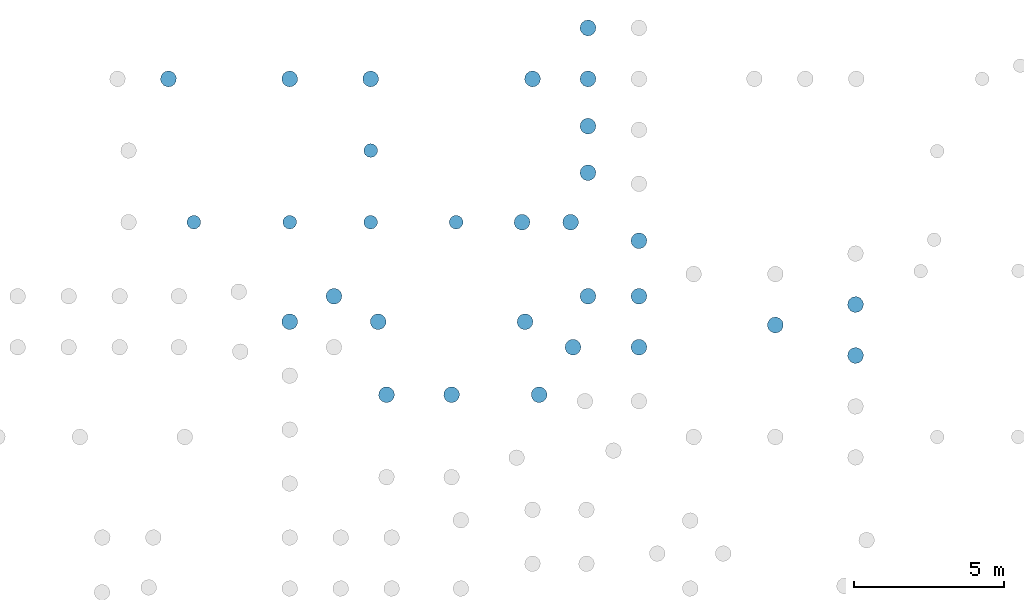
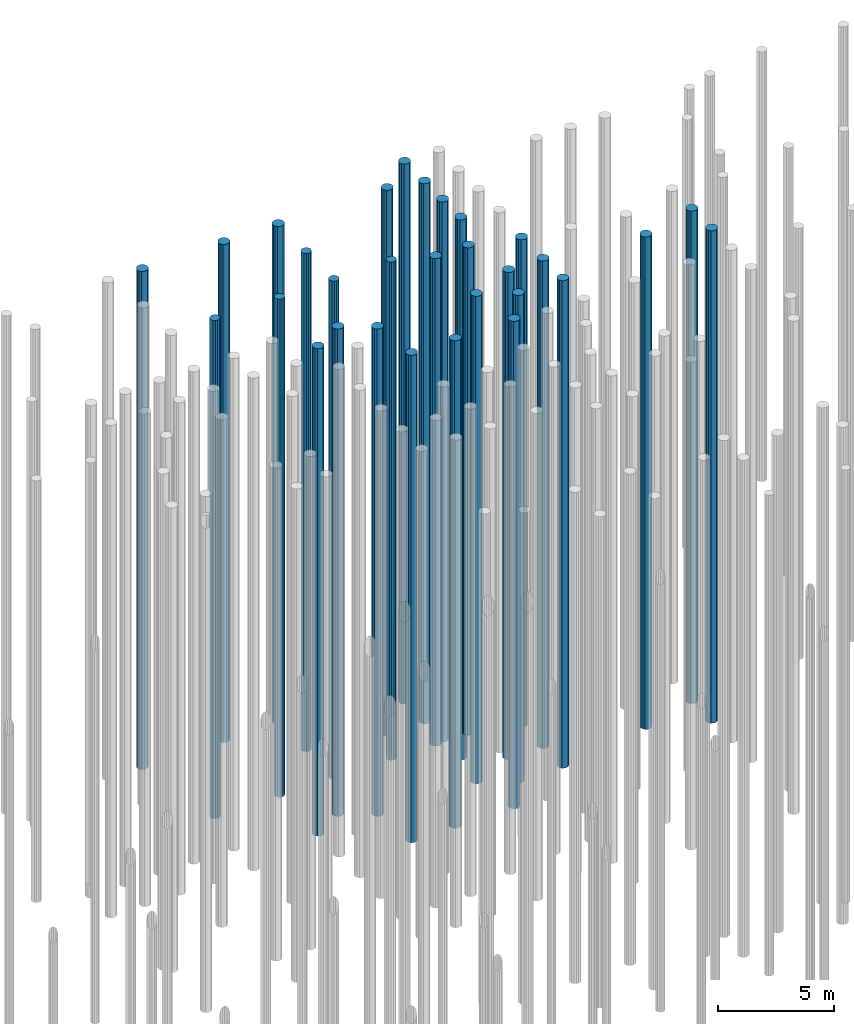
# One storey, part 9 of 20: 30 piles.
"""IFC2X3 building model written with IfcOpenShell, lengths in millimetres."""

from ifc_helpers import new_model, entity, si_unit, converted_unit, derived_unit, direction, frame, origin, place, context, subcontext, project, spatial, polyline, outline, extrude, material, element, save


model = new_model("IFC2X3")

# Units and contexts
model_context = context("Model", 3, precision=0.01, world=origin(), true_north=direction((6.12303176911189e-17, 1.0)))
body_context = subcontext(model_context, "Body", "Model", "MODEL_VIEW")
ifc_project = project(units=[si_unit("LENGTHUNIT", "METRE", prefix="MILLI"), si_unit("AREAUNIT", "SQUARE_METRE"), si_unit("VOLUMEUNIT", "CUBIC_METRE"), converted_unit("PLANEANGLEUNIT", "DEGREE", entity("IfcRatioMeasure", 0.0174532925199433), si_unit("PLANEANGLEUNIT", "RADIAN"), dimensions=[0, 0, 0, 0, 0, 0, 0]), si_unit("MASSUNIT", "GRAM", prefix="KILO"), derived_unit("MASSDENSITYUNIT", [(si_unit("MASSUNIT", "GRAM", prefix="KILO"), 1), (si_unit("LENGTHUNIT", "METRE"), -3)]), si_unit("TIMEUNIT", "SECOND"), si_unit("FREQUENCYUNIT", "HERTZ"), si_unit("THERMODYNAMICTEMPERATUREUNIT", "DEGREE_CELSIUS"), derived_unit("THERMALTRANSMITTANCEUNIT", [(si_unit("MASSUNIT", "GRAM", prefix="KILO"), 1), (si_unit("THERMODYNAMICTEMPERATUREUNIT", "KELVIN"), -1), (si_unit("TIMEUNIT", "SECOND"), -3)]), derived_unit("VOLUMETRICFLOWRATEUNIT", [(si_unit("LENGTHUNIT", "METRE"), 3), (si_unit("TIMEUNIT", "SECOND"), -1)]), si_unit("ELECTRICCURRENTUNIT", "AMPERE"), si_unit("ELECTRICVOLTAGEUNIT", "VOLT"), si_unit("POWERUNIT", "WATT"), si_unit("FORCEUNIT", "NEWTON", prefix="KILO"), si_unit("ILLUMINANCEUNIT", "LUX"), si_unit("LUMINOUSFLUXUNIT", "LUMEN"), si_unit("LUMINOUSINTENSITYUNIT", "CANDELA"), derived_unit("USERDEFINED", [(si_unit("MASSUNIT", "GRAM", prefix="KILO"), -1), (si_unit("LENGTHUNIT", "METRE"), -2), (si_unit("TIMEUNIT", "SECOND"), 3), (si_unit("LUMINOUSFLUXUNIT", "LUMEN"), 1)]), derived_unit("LINEARVELOCITYUNIT", [(si_unit("LENGTHUNIT", "METRE"), 1), (si_unit("TIMEUNIT", "SECOND"), -1)]), si_unit("PRESSUREUNIT", "PASCAL"), derived_unit("USERDEFINED", [(si_unit("LENGTHUNIT", "METRE"), -2), (si_unit("MASSUNIT", "GRAM", prefix="KILO"), 1), (si_unit("TIMEUNIT", "SECOND"), -2)])], contexts=[model_context])

# Site, building, storey
site_placement = place(None, origin())
site = spatial("IfcSite", under=ifc_project, at=site_placement, Name="Default", CompositionType="ELEMENT")
building_placement = place(site_placement, origin())
building = spatial("IfcBuilding", under=site, at=building_placement, Name="niet gebruiken", CompositionType="ELEMENT")
storey_placement = place(building_placement, frame((0.0, 0.0, -4000.0)))
storey = spatial("IfcBuildingStorey", under=building, at=storey_placement, Name="Level t.b.v. palenplan", CompositionType="ELEMENT", Elevation=-4000.0)

# Piles
ifc_material = material(Name="NLRS_f2_beton ihwg")
pile_1_placement = place(storey_placement, origin())
element("IfcPile", 1, at=pile_1_placement, inside=storey, material=ifc_material, Name="NLRS_17.12_SFO_TLB_funderingspaal grondverdringend_gen:Fundex_r530/650", ObjectType="NLRS_17.12_SFO_TLB_funderingspaal grondverdringend_gen:Fundex_r530/650", context=body_context, shape_type="SweptSolid", body=[
    extrude(outline(polyline([(-55.0965980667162, -259.209114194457), (55.096598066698, -259.209114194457), (155.763091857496, -214.389503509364), (229.496732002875, -132.500000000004), (263.548302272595, -27.7000427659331), (252.02997681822, 81.889503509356), (196.933378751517, 177.319610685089), (107.785210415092, 242.089546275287), (55.0965980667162, 259.209114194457), (-55.096598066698, 259.209114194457), (-155.763091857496, 214.389503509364), (-229.496732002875, 132.500000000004), (-263.548302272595, 27.7000427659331), (-252.02997681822, -81.889503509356), (-196.933378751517, -177.319610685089), (-107.785210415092, -242.089546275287), (-55.0965980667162, -259.209114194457)])), frame((46120.0, 42596.0, -23600.0), z_axis=(0.0, 0.0, 1.0), x_axis=(-0.978147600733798, -0.207911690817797, 0.0)), (0.0, 0.0, 1.0), 25570.0),
])
pile_2_placement = place(storey_placement, origin())
element("IfcPile", 2, at=pile_2_placement, inside=storey, material=ifc_material, Name="NLRS_17.12_SFO_TLB_funderingspaal grondverdringend_gen:Fundex_r530/650", ObjectType="NLRS_17.12_SFO_TLB_funderingspaal grondverdringend_gen:Fundex_r530/650", context=body_context, shape_type="SweptSolid", body=[
    extrude(outline(polyline([(-55.0965980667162, -259.209114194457), (55.096598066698, -259.209114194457), (155.763091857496, -214.389503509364), (229.496732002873, -132.500000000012), (263.548302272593, -27.7000427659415), (252.029976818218, 81.8895035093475), (196.933378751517, 177.319610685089), (107.785210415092, 242.089546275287), (55.0965980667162, 259.209114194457), (-55.096598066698, 259.209114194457), (-155.763091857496, 214.389503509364), (-229.496732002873, 132.500000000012), (-263.548302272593, 27.7000427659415), (-252.029976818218, -81.8895035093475), (-196.933378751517, -177.319610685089), (-107.785210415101, -242.089546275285), (-55.0965980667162, -259.209114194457)])), frame((43200.0, 42596.0, -23600.0), z_axis=(0.0, 0.0, 1.0), x_axis=(-0.978147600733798, -0.207911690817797, 0.0)), (0.0, 0.0, 1.0), 25570.0),
])
pile_3_placement = place(storey_placement, origin())
element("IfcPile", 3, at=pile_3_placement, inside=storey, material=ifc_material, Name="NLRS_17.12_SFO_TLB_funderingspaal grondverdringend_gen:Fundex_r530/650", ObjectType="NLRS_17.12_SFO_TLB_funderingspaal grondverdringend_gen:Fundex_r530/650", context=body_context, shape_type="SweptSolid", body=[
    extrude(outline(polyline([(-55.0965980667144, -259.209114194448), (55.0965980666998, -259.209114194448), (155.763091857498, -214.389503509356), (229.496732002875, -132.500000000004), (263.548302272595, -27.7000427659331), (252.02997681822, 81.889503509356), (196.933378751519, 177.319610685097), (107.785210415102, 242.089546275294), (55.096598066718, 259.209114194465), (-55.0965980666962, 259.209114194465), (-155.763091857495, 214.389503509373), (-229.496732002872, 132.500000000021), (-263.548302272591, 27.70004276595), (-252.029976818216, -81.8895035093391), (-196.933378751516, -177.31961068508), (-107.785210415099, -242.089546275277), (-55.0965980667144, -259.209114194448)])), frame((41030.0, 42596.0, -23600.0), z_axis=(0.0, 0.0, 1.0), x_axis=(-0.978147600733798, -0.207911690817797, 0.0)), (0.0, 0.0, 1.0), 25570.0),
])
pile_4_placement = place(storey_placement, origin())
element("IfcPile", 4, at=pile_4_placement, inside=storey, material=ifc_material, Name="NLRS_17.12_SFO_TLB_funderingspaal grondverdringend_gen:Fundex_r530/650", ObjectType="NLRS_17.12_SFO_TLB_funderingspaal grondverdringend_gen:Fundex_r530/650", context=body_context, shape_type="SweptSolid", body=[
    extrude(outline(polyline([(-55.0965980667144, -259.209114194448), (55.0965980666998, -259.209114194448), (155.763091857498, -214.389503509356), (229.496732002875, -132.500000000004), (263.54830227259, -27.7000427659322), (252.02997681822, 81.889503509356), (196.933378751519, 177.319610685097), (107.785210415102, 242.089546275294), (55.096598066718, 259.209114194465), (-55.0965980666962, 259.209114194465), (-155.763091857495, 214.389503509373), (-229.496732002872, 132.500000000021), (-263.548302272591, 27.70004276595), (-252.029976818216, -81.8895035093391), (-196.933378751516, -177.31961068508), (-107.785210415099, -242.089546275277), (-55.0965980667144, -259.209114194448)])), frame((39275.0, 45881.0, -23600.0), z_axis=(0.0, 0.0, 1.0), x_axis=(-0.978147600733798, -0.207911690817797, 0.0)), (0.0, 0.0, 1.0), 25570.0),
])
pile_5_placement = place(storey_placement, origin())
element("IfcPile", 5, at=pile_5_placement, inside=storey, material=ifc_material, Name="NLRS_17.12_SFO_TLB_funderingspaal grondverdringend_gen:Fundex_r530/650", ObjectType="NLRS_17.12_SFO_TLB_funderingspaal grondverdringend_gen:Fundex_r530/650", context=body_context, shape_type="SweptSolid", body=[
    extrude(outline(polyline([(-55.0965980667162, -259.209114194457), (55.096598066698, -259.209114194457), (155.763091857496, -214.389503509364), (229.496732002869, -132.500000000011), (263.548302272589, -27.7000427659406), (252.029976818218, 81.8895035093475), (196.933378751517, 177.319610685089), (107.785210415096, 242.089546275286), (55.0965980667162, 259.209114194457), (-55.096598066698, 259.209114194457), (-155.763091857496, 214.389503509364), (-229.496732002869, 132.500000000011), (-263.548302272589, 27.7000427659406), (-252.029976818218, -81.8895035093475), (-196.933378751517, -177.319610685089), (-107.785210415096, -242.089546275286), (-55.0965980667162, -259.209114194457)])), frame((37800.0, 45031.0, -23600.0), z_axis=(0.0, 0.0, 1.0), x_axis=(-0.978147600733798, -0.207911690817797, 0.0)), (0.0, 0.0, 1.0), 25570.0),
])
pile_6_placement = place(storey_placement, origin())
element("IfcPile", 6, at=pile_6_placement, inside=storey, material=ifc_material, Name="NLRS_17.12_SFO_TLB_funderingspaal grondverdringend_gen:Fundex_r530/650", ObjectType="NLRS_17.12_SFO_TLB_funderingspaal grondverdringend_gen:Fundex_r530/650", context=body_context, shape_type="SweptSolid", body=[
    extrude(outline(polyline([(-55.0965980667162, -259.209114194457), (55.096598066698, -259.209114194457), (155.763091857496, -214.389503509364), (229.496732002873, -132.500000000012), (263.548302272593, -27.7000427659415), (252.029976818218, 81.8895035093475), (196.933378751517, 177.319610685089), (107.785210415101, 242.089546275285), (55.0965980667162, 259.209114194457), (-55.096598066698, 259.209114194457), (-155.763091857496, 214.389503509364), (-229.496732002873, 132.500000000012), (-263.548302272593, 27.7000427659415), (-252.029976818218, -81.8895035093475), (-196.933378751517, -177.319610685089), (-107.785210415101, -242.089546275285), (-55.0965980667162, -259.209114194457)])), frame((40750.0, 45031.0, -23600.0), z_axis=(0.0, 0.0, 1.0), x_axis=(-0.978147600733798, -0.207911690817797, 0.0)), (0.0, 0.0, 1.0), 25570.0),
])
pile_7_placement = place(storey_placement, origin())
element("IfcPile", 7, at=pile_7_placement, inside=storey, material=ifc_material, Name="NLRS_17.12_SFO_TLB_funderingspaal grondverdringend_gen:Fundex_r530/650", ObjectType="NLRS_17.12_SFO_TLB_funderingspaal grondverdringend_gen:Fundex_r530/650", context=body_context, shape_type="SweptSolid", body=[
    extrude(outline(polyline([(-55.0965980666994, -259.209114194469), (55.0965980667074, -259.209114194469), (155.763091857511, -214.389503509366), (229.496732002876, -132.500000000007), (263.548302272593, -27.7000427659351), (252.02997681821, 81.889503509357), (196.933378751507, 177.31961068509), (107.785210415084, 242.089546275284), (55.0965980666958, 259.209114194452), (-55.0965980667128, 259.209114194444), (-155.763091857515, 214.389503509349), (-229.496732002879, 132.49999999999), (-263.548302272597, 27.7000427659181), (-252.029976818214, -81.889503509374), (-196.933378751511, -177.319610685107), (-107.785210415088, -242.089546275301), (-55.0965980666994, -259.209114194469)])), frame((56675.0, 45604.0, -23600.0), z_axis=(0.0, 0.0, 1.0), x_axis=(-0.978147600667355, -0.207911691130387, 0.0)), (0.0, 0.0, 1.0), 25828.0),
])
pile_8_placement = place(storey_placement, origin())
element("IfcPile", 8, at=pile_8_placement, inside=storey, material=ifc_material, Name="NLRS_17.12_SFO_TLB_funderingspaal grondverdringend_gen:Fundex_r530/650", ObjectType="NLRS_17.12_SFO_TLB_funderingspaal grondverdringend_gen:Fundex_r530/650", context=body_context, shape_type="SweptSolid", body=[
    extrude(outline(polyline([(-55.0965980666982, -259.209114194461), (55.0965980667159, -259.209114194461), (155.763091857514, -214.389503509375), (229.496732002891, -132.500000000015), (263.548302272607, -27.7000427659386), (252.029976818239, 81.8895035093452), (196.933378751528, 177.319610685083), (107.785210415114, 242.089546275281), (55.0965980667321, 259.209114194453), (-55.096598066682, 259.209114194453), (-155.763091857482, 214.389503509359), (-229.496732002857, 132.500000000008), (-263.548302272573, 27.7000427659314), (-252.029976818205, -81.8895035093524), (-196.933378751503, -177.319610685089), (-107.78521041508, -242.089546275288), (-55.0965980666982, -259.209114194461)])), frame((54000.0, 44921.0, -23600.0), z_axis=(0.0, 0.0, 1.0), x_axis=(-0.978147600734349, -0.207911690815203, 0.0)), (0.0, 0.0, 1.0), 25828.0),
])
pile_9_placement = place(storey_placement, origin())
element("IfcPile", 9, at=pile_9_placement, inside=storey, material=ifc_material, Name="NLRS_17.12_SFO_TLB_funderingspaal grondverdringend_gen:Fundex_r530/650", ObjectType="NLRS_17.12_SFO_TLB_funderingspaal grondverdringend_gen:Fundex_r530/650", context=body_context, shape_type="SweptSolid", body=[
    extrude(outline(polyline([(-55.0965980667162, -259.209114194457), (55.096598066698, -259.209114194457), (155.763091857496, -214.389503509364), (229.496732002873, -132.500000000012), (263.548302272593, -27.7000427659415), (252.029976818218, 81.8895035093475), (196.933378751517, 177.319610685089), (107.785210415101, 242.089546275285), (55.0965980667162, 259.209114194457), (-55.096598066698, 259.209114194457), (-155.763091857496, 214.389503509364), (-229.496732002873, 132.500000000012), (-263.548302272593, 27.7000427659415), (-252.029976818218, -81.8895035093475), (-196.933378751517, -177.319610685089), (-107.785210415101, -242.089546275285), (-55.0965980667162, -259.209114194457)])), frame((45650.0, 45031.0, -23600.0), z_axis=(0.0, 0.0, 1.0), x_axis=(-0.978147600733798, -0.207911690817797, 0.0)), (0.0, 0.0, 1.0), 25570.0),
])
pile_10_placement = place(storey_placement, origin())
element("IfcPile", 10, at=pile_10_placement, inside=storey, material=ifc_material, Name="NLRS_17.12_SFO_TLB_funderingspaal grondverdringend_gen:Fundex_r530/650", ObjectType="NLRS_17.12_SFO_TLB_funderingspaal grondverdringend_gen:Fundex_r530/650", context=body_context, shape_type="SweptSolid", body=[
    extrude(outline(polyline([(-55.0965980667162, -259.209114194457), (55.096598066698, -259.209114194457), (155.763091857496, -214.389503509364), (229.496732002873, -132.500000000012), (263.548302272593, -27.7000427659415), (252.029976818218, 81.8895035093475), (196.933378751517, 177.319610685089), (107.785210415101, 242.089546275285), (55.0965980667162, 259.209114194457), (-55.096598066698, 259.209114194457), (-155.763091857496, 214.389503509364), (-229.496732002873, 132.500000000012), (-263.548302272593, 27.7000427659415), (-252.029976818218, -81.8895035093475), (-196.933378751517, -177.319610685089), (-107.785210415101, -242.089546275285), (-55.0965980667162, -259.209114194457)])), frame((47250.0, 44181.0, -23600.0), z_axis=(0.0, 0.0, 1.0), x_axis=(-0.978147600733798, -0.207911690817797, 0.0)), (0.0, 0.0, 1.0), 25570.0),
])
pile_11_placement = place(storey_placement, origin())
element("IfcPile", 11, at=pile_11_placement, inside=storey, material=ifc_material, Name="NLRS_17.12_SFO_TLB_funderingspaal grondverdringend_gen:Fundex_r530/650", ObjectType="NLRS_17.12_SFO_TLB_funderingspaal grondverdringend_gen:Fundex_r530/650", context=body_context, shape_type="SweptSolid", body=[
    extrude(outline(polyline([(-55.0965980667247, -259.209114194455), (55.0965980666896, -259.209114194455), (155.763091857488, -214.389503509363), (229.496732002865, -132.50000000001), (263.548302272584, -27.7000427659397), (252.02997681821, 81.8895035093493), (196.933378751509, 177.31961068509), (107.785210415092, 242.089546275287), (55.0965980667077, 259.209114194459), (-55.0965980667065, 259.209114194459), (-155.763091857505, 214.389503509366), (-229.496732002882, 132.500000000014), (-263.548302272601, 27.7000427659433), (-252.029976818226, -81.8895035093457), (-196.933378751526, -177.319610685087), (-107.785210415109, -242.089546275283), (-55.0965980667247, -259.209114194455)])), frame((47750.0, 45881.0, -23600.0), z_axis=(0.0, 0.0, 1.0), x_axis=(-0.978147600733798, -0.207911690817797, 0.0)), (0.0, 0.0, 1.0), 25570.0),
])
pile_12_placement = place(storey_placement, origin())
element("IfcPile", 12, at=pile_12_placement, inside=storey, material=ifc_material, Name="NLRS_17.12_SFO_TLB_funderingspaal grondverdringend_gen:Fundex_r530/650", ObjectType="NLRS_17.12_SFO_TLB_funderingspaal grondverdringend_gen:Fundex_r530/650", context=body_context, shape_type="SweptSolid", body=[
    extrude(outline(polyline([(-55.0965980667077, -259.209114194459), (55.0965980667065, -259.209114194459), (155.763091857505, -214.389503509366), (229.496732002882, -132.500000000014), (263.548302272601, -27.7000427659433), (252.029976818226, 81.8895035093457), (196.933378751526, 177.319610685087), (107.785210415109, 242.089546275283), (55.0965980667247, 259.209114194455), (-55.0965980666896, 259.209114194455), (-155.763091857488, 214.389503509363), (-229.496732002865, 132.50000000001), (-263.548302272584, 27.7000427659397), (-252.02997681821, -81.8895035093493), (-196.933378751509, -177.31961068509), (-107.785210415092, -242.089546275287), (-55.0965980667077, -259.209114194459)])), frame((49450.0, 44181.0, -23600.0), z_axis=(0.0, 0.0, 1.0), x_axis=(-0.978147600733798, -0.207911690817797, 0.0)), (0.0, 0.0, 1.0), 25570.0),
])
pile_13_placement = place(storey_placement, origin())
element("IfcPile", 13, at=pile_13_placement, inside=storey, material=ifc_material, Name="NLRS_17.12_SFO_TLB_funderingspaal grondverdringend_gen:Fundex_r530/650", ObjectType="NLRS_17.12_SFO_TLB_funderingspaal grondverdringend_gen:Fundex_r530/650", context=body_context, shape_type="SweptSolid", body=[
    extrude(outline(polyline([(-55.0965980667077, -259.209114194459), (55.0965980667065, -259.209114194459), (155.763091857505, -214.389503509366), (229.496732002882, -132.500000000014), (263.548302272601, -27.7000427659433), (252.029976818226, 81.8895035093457), (196.933378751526, 177.319610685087), (107.785210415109, 242.089546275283), (55.0965980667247, 259.209114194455), (-55.0965980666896, 259.209114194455), (-155.763091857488, 214.389503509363), (-229.496732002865, 132.50000000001), (-263.548302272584, 27.7000427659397), (-252.02997681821, -81.8895035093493), (-196.933378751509, -177.31961068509), (-107.785210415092, -242.089546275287), (-55.0965980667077, -259.209114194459)])), frame((49450.0, 45881.0, -23600.0), z_axis=(0.0, 0.0, 1.0), x_axis=(-0.978147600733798, -0.207911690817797, 0.0)), (0.0, 0.0, 1.0), 25570.0),
])
pile_14_placement = place(storey_placement, origin())
element("IfcPile", 14, at=pile_14_placement, inside=storey, material=ifc_material, Name="NLRS_17.12_SFO_TLB_funderingspaal grondverdringend_gen:Fundex_r530/650", ObjectType="NLRS_17.12_SFO_TLB_funderingspaal grondverdringend_gen:Fundex_r530/650", context=body_context, shape_type="SweptSolid", body=[
    extrude(outline(polyline([(-55.0965980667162, -259.209114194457), (55.096598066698, -259.209114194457), (155.763091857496, -214.389503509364), (229.496732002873, -132.500000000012), (263.548302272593, -27.7000427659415), (252.029976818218, 81.8895035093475), (196.933378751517, 177.319610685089), (107.785210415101, 242.089546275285), (55.0965980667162, 259.209114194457), (-55.096598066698, 259.209114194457), (-155.763091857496, 214.389503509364), (-229.496732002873, 132.500000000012), (-263.548302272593, 27.7000427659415), (-252.029976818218, -81.8895035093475), (-196.933378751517, -177.319610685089), (-107.785210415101, -242.089546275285), (-55.0965980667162, -259.209114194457)])), frame((47170.0, 48351.0, -23600.0), z_axis=(0.0, 0.0, 1.0), x_axis=(-0.978147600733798, -0.207911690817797, 0.0)), (0.0, 0.0, 1.0), 25570.0),
])
pile_15_placement = place(storey_placement, origin())
element("IfcPile", 15, at=pile_15_placement, inside=storey, material=ifc_material, Name="NLRS_17.12_SFO_TLB_funderingspaal grondverdringend_gen:Fundex_r530/650", ObjectType="NLRS_17.12_SFO_TLB_funderingspaal grondverdringend_gen:Fundex_r530/650", context=body_context, shape_type="SweptSolid", body=[
    extrude(outline(polyline([(-55.0965980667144, -259.209114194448), (55.0965980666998, -259.209114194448), (155.763091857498, -214.389503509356), (229.496732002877, -132.499999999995), (263.548302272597, -27.7000427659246), (252.029976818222, 81.8895035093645), (196.933378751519, 177.319610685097), (107.785210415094, 242.089546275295), (55.096598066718, 259.209114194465), (-55.0965980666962, 259.209114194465), (-155.763091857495, 214.389503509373), (-229.496732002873, 132.500000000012), (-263.548302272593, 27.7000427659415), (-252.029976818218, -81.8895035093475), (-196.933378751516, -177.31961068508), (-107.78521041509, -242.089546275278), (-55.0965980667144, -259.209114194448)])), frame((45550.0, 48351.0, -23600.0), z_axis=(0.0, 0.0, 1.0), x_axis=(-0.978147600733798, -0.207911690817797, 0.0)), (0.0, 0.0, 1.0), 25570.0),
])
pile_16_placement = place(storey_placement, origin())
element("IfcPile", 16, at=pile_16_placement, inside=storey, material=ifc_material, Name="NLRS_17.12_SFO_TLB_funderingspaal grondverdringend_gen:Fundex_r460/560", ObjectType="NLRS_17.12_SFO_TLB_funderingspaal grondverdringend_gen:Fundex_r460/560", context=body_context, shape_type="SweptSolid", body=[
    extrude(outline(polyline([(-25.7518295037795, -228.553808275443), (25.7518295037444, -228.553808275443), (122.367377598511, -194.746565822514), (194.74656582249, -122.367377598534), (228.553808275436, -25.75182950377), (217.093165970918, 75.9641842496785), (162.634559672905, 162.634559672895), (75.964184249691, 217.093165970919), (25.7518295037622, 228.553808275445), (-25.7518295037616, 228.553808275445), (-122.367377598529, 194.746565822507), (-194.746565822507, 122.367377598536), (-228.553808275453, 25.7518295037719), (-217.093165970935, -75.9641842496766), (-162.634559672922, -162.634559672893), (-75.9641842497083, -217.093165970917), (-25.7518295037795, -228.553808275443)])), frame((43350.0, 48351.0, -23600.0), z_axis=(0.0, 0.0, 1.0), x_axis=(0.111964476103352, -0.993712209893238, 0.0)), (0.0, 0.0, 1.0), 26128.0),
])
pile_17_placement = place(storey_placement, origin())
element("IfcPile", 17, at=pile_17_placement, inside=storey, material=ifc_material, Name="NLRS_17.12_SFO_TLB_funderingspaal grondverdringend_gen:Fundex_r460/560", ObjectType="NLRS_17.12_SFO_TLB_funderingspaal grondverdringend_gen:Fundex_r460/560", context=body_context, shape_type="SweptSolid", body=[
    extrude(outline(polyline([(-25.7518295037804, -228.553808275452), (25.7518295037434, -228.553808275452), (122.36737759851, -194.746565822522), (194.746565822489, -122.367377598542), (228.553808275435, -25.7518295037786), (217.093165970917, 75.9641842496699), (162.634559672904, 162.634559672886), (75.9641842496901, 217.09316597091), (25.7518295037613, 228.553808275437), (-25.7518295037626, 228.553808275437), (-122.36737759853, 194.746565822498), (-194.746565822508, 122.367377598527), (-228.553808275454, 25.7518295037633), (-217.093165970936, -75.9641842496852), (-162.634559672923, -162.634559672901), (-75.9641842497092, -217.093165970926), (-25.7518295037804, -228.553808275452)])), frame((40500.0, 48351.0, -23600.0), z_axis=(0.0, 0.0, 1.0), x_axis=(0.111964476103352, -0.993712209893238, 0.0)), (0.0, 0.0, 1.0), 26128.0),
])
pile_18_placement = place(storey_placement, origin())
element("IfcPile", 18, at=pile_18_placement, inside=storey, material=ifc_material, Name="NLRS_17.12_SFO_TLB_funderingspaal grondverdringend_gen:Fundex_r460/560", ObjectType="NLRS_17.12_SFO_TLB_funderingspaal grondverdringend_gen:Fundex_r460/560", context=body_context, shape_type="SweptSolid", body=[
    extrude(outline(polyline([(-25.7518295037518, -228.553808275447), (25.7518295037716, -228.553808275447), (122.367377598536, -194.7465658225), (194.746565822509, -122.367377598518), (228.553808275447, -25.7518295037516), (217.09316597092, 75.9641842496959), (162.6345596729, 162.634559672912), (75.9641842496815, 217.093165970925), (25.7518295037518, 228.553808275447), (-25.7518295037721, 228.553808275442), (-122.367377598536, 194.7465658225), (-194.746565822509, 122.367377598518), (-228.553808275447, 25.7518295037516), (-217.09316597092, -75.9641842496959), (-162.6345596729, -162.634559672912), (-75.9641842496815, -217.093165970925), (-25.7518295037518, -228.553808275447)])), frame((37800.0, 48351.0, -23600.0), z_axis=(0.0, 0.0, 1.0), x_axis=(0.111964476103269, -0.993712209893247, 0.0)), (0.0, 0.0, 1.0), 26128.0),
])
pile_19_placement = place(storey_placement, origin())
element("IfcPile", 19, at=pile_19_placement, inside=storey, material=ifc_material, Name="NLRS_17.12_SFO_TLB_funderingspaal grondverdringend_gen:Fundex_r460/560", ObjectType="NLRS_17.12_SFO_TLB_funderingspaal grondverdringend_gen:Fundex_r460/560", context=body_context, shape_type="SweptSolid", body=[
    extrude(outline(polyline([(-25.7518295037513, -228.553808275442), (25.7518295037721, -228.553808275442), (122.367377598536, -194.746565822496), (194.746565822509, -122.367377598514), (228.553808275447, -25.7518295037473), (217.093165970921, 75.9641842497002), (162.634559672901, 162.634559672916), (75.964184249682, 217.093165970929), (25.7518295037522, 228.553808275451), (-25.7518295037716, 228.553808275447), (-122.367377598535, 194.746565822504), (-194.746565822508, 122.367377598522), (-228.553808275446, 25.7518295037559), (-217.09316597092, -75.9641842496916), (-162.6345596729, -162.634559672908), (-75.964184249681, -217.09316597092), (-25.7518295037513, -228.553808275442)])), frame((34600.0, 48351.0, -23600.0), z_axis=(0.0, 0.0, 1.0), x_axis=(0.111964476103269, -0.993712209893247, 0.0)), (0.0, 0.0, 1.0), 26128.0),
])
pile_20_placement = place(storey_placement, origin())
element("IfcPile", 20, at=pile_20_placement, inside=storey, material=ifc_material, Name="NLRS_17.12_SFO_TLB_funderingspaal grondverdringend_gen:Fundex_r530/650", ObjectType="NLRS_17.12_SFO_TLB_funderingspaal grondverdringend_gen:Fundex_r530/650", context=body_context, shape_type="SweptSolid", body=[
    extrude(outline(polyline([(-55.0965980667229, -259.209114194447), (55.0965980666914, -259.209114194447), (155.76309185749, -214.389503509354), (229.496732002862, -132.500000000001), (263.548302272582, -27.7000427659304), (252.029976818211, 81.8895035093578), (196.933378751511, 177.319610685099), (107.78521041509, 242.089546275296), (55.0965980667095, 259.209114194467), (-55.0965980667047, 259.209114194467), (-155.763091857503, 214.389503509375), (-229.496732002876, 132.500000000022), (-263.548302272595, 27.7000427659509), (-252.029976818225, -81.8895035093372), (-196.933378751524, -177.319610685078), (-107.785210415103, -242.089546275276), (-55.0965980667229, -259.209114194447)])), frame((37800.0, 53131.0, -23600.0), z_axis=(0.0, 0.0, 1.0), x_axis=(-0.978147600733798, -0.207911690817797, 0.0)), (0.0, 0.0, 1.0), 26128.0),
])
pile_21_placement = place(storey_placement, origin())
element("IfcPile", 21, at=pile_21_placement, inside=storey, material=ifc_material, Name="NLRS_17.12_SFO_TLB_funderingspaal grondverdringend_gen:Fundex_r530/650", ObjectType="NLRS_17.12_SFO_TLB_funderingspaal grondverdringend_gen:Fundex_r530/650", context=body_context, shape_type="SweptSolid", body=[
    extrude(outline(polyline([(-55.0965980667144, -259.209114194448), (55.0965980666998, -259.209114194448), (155.763091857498, -214.389503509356), (229.496732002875, -132.500000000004), (263.548302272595, -27.7000427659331), (252.02997681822, 81.889503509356), (196.933378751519, 177.319610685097), (107.785210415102, 242.089546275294), (55.096598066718, 259.209114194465), (-55.0965980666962, 259.209114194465), (-155.763091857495, 214.389503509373), (-229.496732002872, 132.500000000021), (-263.548302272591, 27.70004276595), (-252.029976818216, -81.8895035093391), (-196.933378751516, -177.31961068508), (-107.785210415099, -242.089546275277), (-55.0965980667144, -259.209114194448)])), frame((40500.0, 53131.0, -23600.0), z_axis=(0.0, 0.0, 1.0), x_axis=(-0.978147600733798, -0.207911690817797, 0.0)), (0.0, 0.0, 1.0), 26128.0),
])
pile_22_placement = place(storey_placement, origin())
element("IfcPile", 22, at=pile_22_placement, inside=storey, material=ifc_material, Name="NLRS_17.12_SFO_TLB_funderingspaal grondverdringend_gen:Fundex_r460/560", ObjectType="NLRS_17.12_SFO_TLB_funderingspaal grondverdringend_gen:Fundex_r460/560", context=body_context, shape_type="SweptSolid", body=[
    extrude(outline(polyline([(-25.7518295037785, -228.553808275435), (25.7518295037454, -228.553808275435), (122.367377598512, -194.746565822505), (194.746565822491, -122.367377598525), (228.553808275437, -25.7518295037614), (217.093165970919, 75.9641842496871), (162.634559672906, 162.634559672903), (75.964184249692, 217.093165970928), (25.7518295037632, 228.553808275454), (-25.7518295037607, 228.553808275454), (-122.367377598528, 194.746565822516), (-194.746565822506, 122.367377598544), (-228.553808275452, 25.7518295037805), (-217.093165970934, -75.964184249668), (-162.634559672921, -162.634559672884), (-75.9641842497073, -217.093165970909), (-25.7518295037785, -228.553808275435)])), frame((40500.0, 50741.0, -23600.0), z_axis=(0.0, 0.0, 1.0), x_axis=(0.111964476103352, -0.993712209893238, 0.0)), (0.0, 0.0, 1.0), 26128.0),
])
pile_23_placement = place(storey_placement, origin())
element("IfcPile", 23, at=pile_23_placement, inside=storey, material=ifc_material, Name="NLRS_17.12_SFO_TLB_funderingspaal grondverdringend_gen:Fundex_r530/650", ObjectType="NLRS_17.12_SFO_TLB_funderingspaal grondverdringend_gen:Fundex_r530/650", context=body_context, shape_type="SweptSolid", body=[
    extrude(outline(polyline([(-55.0965980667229, -259.209114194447), (55.0965980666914, -259.209114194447), (155.76309185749, -214.389503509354), (229.496732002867, -132.500000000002), (263.548302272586, -27.7000427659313), (252.029976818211, 81.8895035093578), (196.933378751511, 177.319610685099), (107.785210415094, 242.089546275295), (55.0965980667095, 259.209114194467), (-55.0965980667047, 259.209114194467), (-155.763091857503, 214.389503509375), (-229.49673200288, 132.500000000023), (-263.5483022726, 27.7000427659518), (-252.029976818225, -81.8895035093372), (-196.933378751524, -177.319610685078), (-107.785210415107, -242.089546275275), (-55.0965980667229, -259.209114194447)])), frame((45900.0, 53131.0, -26100.0), z_axis=(0.0, 0.0, 1.0), x_axis=(-0.978147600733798, -0.207911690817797, 0.0)), (0.0, 0.0, 1.0), 28628.0),
])
pile_24_placement = place(storey_placement, origin())
element("IfcPile", 24, at=pile_24_placement, inside=storey, material=ifc_material, Name="NLRS_17.12_SFO_TLB_funderingspaal grondverdringend_gen:Fundex_r530/650", ObjectType="NLRS_17.12_SFO_TLB_funderingspaal grondverdringend_gen:Fundex_r530/650", context=body_context, shape_type="SweptSolid", body=[
    extrude(outline(polyline([(-55.0965980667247, -259.209114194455), (55.0965980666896, -259.209114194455), (155.763091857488, -214.389503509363), (229.496732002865, -132.50000000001), (263.548302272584, -27.7000427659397), (252.02997681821, 81.8895035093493), (196.933378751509, 177.31961068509), (107.785210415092, 242.089546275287), (55.0965980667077, 259.209114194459), (-55.0965980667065, 259.209114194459), (-155.763091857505, 214.389503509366), (-229.496732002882, 132.500000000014), (-263.548302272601, 27.7000427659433), (-252.029976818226, -81.8895035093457), (-196.933378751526, -177.319610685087), (-107.785210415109, -242.089546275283), (-55.0965980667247, -259.209114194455)])), frame((49450.0, 47731.0, -23600.0), z_axis=(0.0, 0.0, 1.0), x_axis=(-0.978147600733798, -0.207911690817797, 0.0)), (0.0, 0.0, 1.0), 25570.0),
])
pile_25_placement = place(storey_placement, origin())
element("IfcPile", 25, at=pile_25_placement, inside=storey, material=ifc_material, Name="NLRS_17.12_SFO_TLB_funderingspaal grondverdringend_gen:Fundex_r530/650", ObjectType="NLRS_17.12_SFO_TLB_funderingspaal grondverdringend_gen:Fundex_r530/650", context=body_context, shape_type="SweptSolid", body=[
    extrude(outline(polyline([(-55.0965980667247, -259.209114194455), (55.0965980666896, -259.209114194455), (155.763091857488, -214.389503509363), (229.496732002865, -132.50000000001), (263.548302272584, -27.7000427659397), (252.02997681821, 81.8895035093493), (196.933378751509, 177.31961068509), (107.785210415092, 242.089546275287), (55.0965980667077, 259.209114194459), (-55.0965980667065, 259.209114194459), (-155.763091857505, 214.389503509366), (-229.496732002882, 132.500000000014), (-263.548302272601, 27.7000427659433), (-252.029976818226, -81.8895035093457), (-196.933378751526, -177.319610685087), (-107.785210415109, -242.089546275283), (-55.0965980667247, -259.209114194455)])), frame((47750.0, 50001.0, -26100.0), z_axis=(0.0, 0.0, 1.0), x_axis=(-0.978147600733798, -0.207911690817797, 0.0)), (0.0, 0.0, 1.0), 28328.0),
])
pile_26_placement = place(storey_placement, origin())
element("IfcPile", 26, at=pile_26_placement, inside=storey, material=ifc_material, Name="NLRS_17.12_SFO_TLB_funderingspaal grondverdringend_gen:Fundex_r530/650", ObjectType="NLRS_17.12_SFO_TLB_funderingspaal grondverdringend_gen:Fundex_r530/650", context=body_context, shape_type="SweptSolid", body=[
    extrude(outline(polyline([(-55.0965980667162, -259.209114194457), (55.096598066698, -259.209114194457), (155.763091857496, -214.389503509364), (229.496732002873, -132.500000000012), (263.548302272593, -27.7000427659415), (252.029976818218, 81.8895035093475), (196.933378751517, 177.319610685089), (107.785210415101, 242.089546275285), (55.0965980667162, 259.209114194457), (-55.096598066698, 259.209114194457), (-155.763091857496, 214.389503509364), (-229.496732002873, 132.500000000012), (-263.548302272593, 27.7000427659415), (-252.029976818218, -81.8895035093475), (-196.933378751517, -177.319610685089), (-107.785210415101, -242.089546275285), (-55.0965980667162, -259.209114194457)])), frame((47750.0, 51556.0, -26100.0), z_axis=(0.0, 0.0, 1.0), x_axis=(-0.978147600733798, -0.207911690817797, 0.0)), (0.0, 0.0, 1.0), 28328.0),
])
pile_27_placement = place(storey_placement, origin())
element("IfcPile", 27, at=pile_27_placement, inside=storey, material=ifc_material, Name="NLRS_17.12_SFO_TLB_funderingspaal grondverdringend_gen:Fundex_r530/650", ObjectType="NLRS_17.12_SFO_TLB_funderingspaal grondverdringend_gen:Fundex_r530/650", context=body_context, shape_type="SweptSolid", body=[
    extrude(outline(polyline([(-55.0965980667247, -259.209114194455), (55.0965980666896, -259.209114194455), (155.763091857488, -214.389503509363), (229.496732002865, -132.50000000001), (263.548302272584, -27.7000427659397), (252.02997681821, 81.8895035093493), (196.933378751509, 177.31961068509), (107.785210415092, 242.089546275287), (55.0965980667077, 259.209114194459), (-55.0965980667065, 259.209114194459), (-155.763091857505, 214.389503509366), (-229.496732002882, 132.500000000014), (-263.548302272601, 27.7000427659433), (-252.029976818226, -81.8895035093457), (-196.933378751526, -177.319610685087), (-107.785210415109, -242.089546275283), (-55.0965980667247, -259.209114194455)])), frame((47750.0, 53131.0, -26100.0), z_axis=(0.0, 0.0, 1.0), x_axis=(-0.978147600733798, -0.207911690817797, 0.0)), (0.0, 0.0, 1.0), 28328.0),
])
pile_28_placement = place(storey_placement, origin())
element("IfcPile", 28, at=pile_28_placement, inside=storey, material=ifc_material, Name="NLRS_17.12_SFO_TLB_funderingspaal grondverdringend_gen:Fundex_r530/650", ObjectType="NLRS_17.12_SFO_TLB_funderingspaal grondverdringend_gen:Fundex_r530/650", context=body_context, shape_type="SweptSolid", body=[
    extrude(outline(polyline([(-55.0965980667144, -259.209114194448), (55.0965980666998, -259.209114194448), (155.763091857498, -214.389503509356), (229.496732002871, -132.500000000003), (263.54830227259, -27.7000427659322), (252.02997681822, 81.889503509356), (196.933378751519, 177.319610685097), (107.785210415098, 242.089546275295), (55.096598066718, 259.209114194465), (-55.0965980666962, 259.209114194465), (-155.763091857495, 214.389503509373), (-229.496732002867, 132.50000000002), (-263.548302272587, 27.7000427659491), (-252.029976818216, -81.8895035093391), (-196.933378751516, -177.31961068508), (-107.785210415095, -242.089546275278), (-55.0965980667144, -259.209114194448)])), frame((33755.0, 53131.0, -23600.0), z_axis=(0.0, 0.0, 1.0), x_axis=(-0.978147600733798, -0.207911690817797, 0.0)), (0.0, 0.0, 1.0), 26128.0),
])
pile_29_placement = place(storey_placement, origin())
element("IfcPile", 29, at=pile_29_placement, inside=storey, material=ifc_material, Name="NLRS_17.12_SFO_TLB_funderingspaal grondverdringend_gen:Fundex_r530/650", ObjectType="NLRS_17.12_SFO_TLB_funderingspaal grondverdringend_gen:Fundex_r530/650", context=body_context, shape_type="SweptSolid", body=[
    extrude(outline(polyline([(-55.0965980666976, -259.209114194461), (55.0965980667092, -259.209114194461), (155.763091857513, -214.389503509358), (229.496732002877, -132.499999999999), (263.548302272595, -27.7000427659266), (252.029976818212, 81.8895035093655), (196.933378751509, 177.319610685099), (107.785210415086, 242.089546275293), (55.0965980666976, 259.209114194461), (-55.096598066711, 259.209114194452), (-155.763091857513, 214.389503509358), (-229.496732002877, 132.499999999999), (-263.548302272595, 27.7000427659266), (-252.029976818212, -81.8895035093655), (-196.933378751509, -177.319610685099), (-107.785210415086, -242.089546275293), (-55.0965980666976, -259.209114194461)])), frame((56675.0, 43904.0, -23600.0), z_axis=(0.0, 0.0, 1.0), x_axis=(-0.978147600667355, -0.207911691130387, 0.0)), (0.0, 0.0, 1.0), 25828.0),
])
pile_30_placement = place(storey_placement, origin())
element("IfcPile", 30, at=pile_30_placement, inside=storey, material=ifc_material, Name="NLRS_17.12_SFO_TLB_funderingspaal grondverdringend_gen:Fundex_r530/650", ObjectType="NLRS_17.12_SFO_TLB_funderingspaal grondverdringend_gen:Fundex_r530/650", context=body_context, shape_type="SweptSolid", body=[
    extrude(outline(polyline([(-55.0965980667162, -259.209114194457), (55.096598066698, -259.209114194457), (155.763091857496, -214.389503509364), (229.496732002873, -132.500000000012), (263.548302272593, -27.7000427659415), (252.029976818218, 81.8895035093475), (196.933378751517, 177.319610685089), (107.785210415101, 242.089546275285), (55.0965980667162, 259.209114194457), (-55.096598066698, 259.209114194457), (-155.763091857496, 214.389503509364), (-229.496732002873, 132.500000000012), (-263.548302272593, 27.7000427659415), (-252.029976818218, -81.8895035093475), (-196.933378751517, -177.319610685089), (-107.785210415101, -242.089546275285), (-55.0965980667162, -259.209114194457)])), frame((47750.0, 54831.0, -26100.0), z_axis=(0.0, 0.0, 1.0), x_axis=(-0.978147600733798, -0.207911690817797, 0.0)), (0.0, 0.0, 1.0), 28328.0),
])

save(model, "model.ifc")
